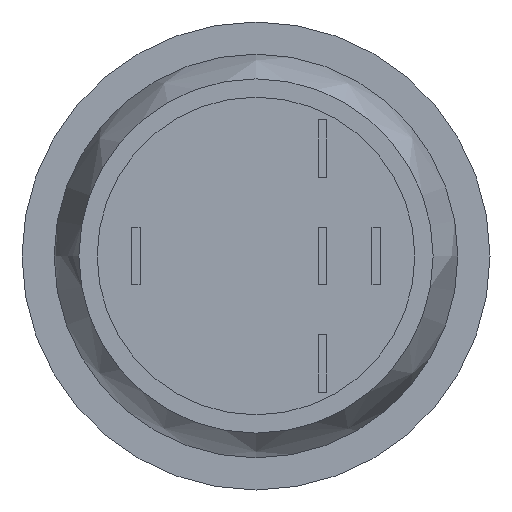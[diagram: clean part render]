
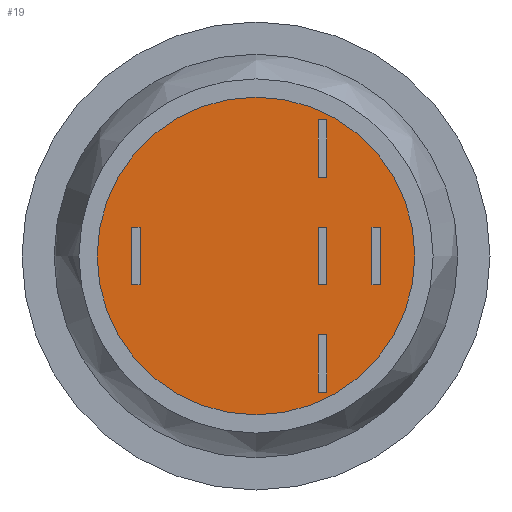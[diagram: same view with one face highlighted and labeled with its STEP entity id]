
A CAD part, front view. The second image highlights one B-rep face of the part: STEP entity #19.
In plain terms, the highlighted planar face has unit normal (0, -1, 0).
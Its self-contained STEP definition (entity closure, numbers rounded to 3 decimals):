
#19 = ADVANCED_FACE ( 'NONE', ( #3339 ), #1867, .T. ) ;
#62 = CARTESIAN_POINT ( 'NONE',  ( 7.4, -30., 0. ) ) ;
#141 = DIRECTION ( 'NONE',  ( 0., -1., 0. ) ) ;
#466 = VERTEX_POINT ( 'NONE', #62 ) ;
#921 = CARTESIAN_POINT ( 'NONE',  ( 0., -30., 0. ) ) ;
#1235 = ORIENTED_EDGE ( 'NONE', *, *, #4834, .T. ) ;
#1867 = PLANE ( 'NONE',  #4536 ) ;
#2066 = EDGE_LOOP ( 'NONE', ( #1235 ) ) ;
#2123 = AXIS2_PLACEMENT_3D ( 'NONE', #921, #141, #2404 ) ;
#2404 = DIRECTION ( 'NONE',  ( 1., 0., 0. ) ) ;
#2905 = DIRECTION ( 'NONE',  ( 0., -1., 0. ) ) ;
#2925 = CARTESIAN_POINT ( 'NONE',  ( 0., -30., 0. ) ) ;
#3339 = FACE_OUTER_BOUND ( 'NONE', #2066, .T. ) ;
#4536 = AXIS2_PLACEMENT_3D ( 'NONE', #2925, #2905, #4839 ) ;
#4760 = CIRCLE ( 'NONE', #2123, 7.4 ) ;
#4834 = EDGE_CURVE ( 'NONE', #466, #466, #4760, .T. ) ;
#4839 = DIRECTION ( 'NONE',  ( 1., 0., 0. ) ) ;
